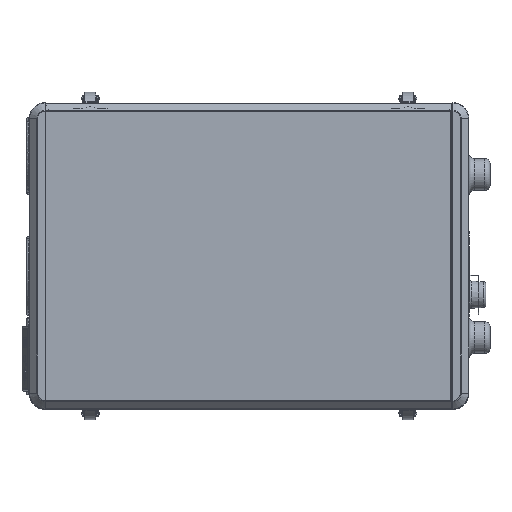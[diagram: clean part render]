
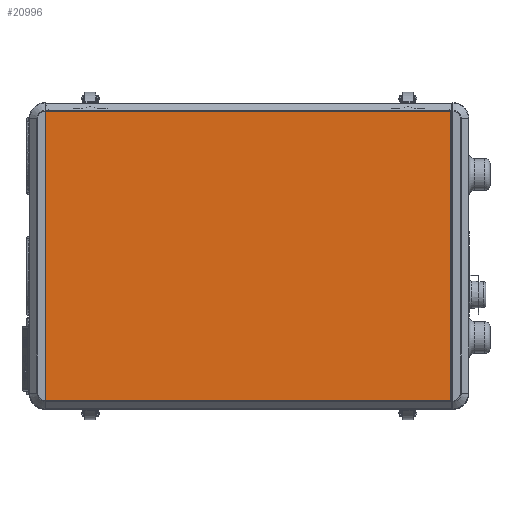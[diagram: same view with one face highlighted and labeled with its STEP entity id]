
A CAD part, top view. The second image highlights one B-rep face of the part: STEP entity #20996.
In plain terms, the highlighted planar face has unit normal (0, 0, 1) as drawn and (0, 0, -1) by its records, which use the part's own axes.
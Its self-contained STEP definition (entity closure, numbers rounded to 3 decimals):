
#1551=LINE('',#38131,#2999);
#1573=LINE('',#38186,#3021);
#1683=LINE('',#38441,#3131);
#1684=LINE('',#38452,#3132);
#2999=VECTOR('',#28151,1000.);
#3021=VECTOR('',#28199,1000.);
#3131=VECTOR('',#28443,1000.);
#3132=VECTOR('',#28464,1000.);
#3852=PLANE('',#23169);
#8486=ORIENTED_EDGE('',*,*,#11910,.T.);
#8487=ORIENTED_EDGE('',*,*,#11748,.T.);
#8488=ORIENTED_EDGE('',*,*,#11905,.T.);
#8489=ORIENTED_EDGE('',*,*,#11774,.T.);
#11748=EDGE_CURVE('',#13878,#13877,#1551,.T.);
#11774=EDGE_CURVE('',#13898,#13897,#1573,.T.);
#11905=EDGE_CURVE('',#13877,#13898,#1683,.T.);
#11910=EDGE_CURVE('',#13897,#13878,#1684,.T.);
#13877=VERTEX_POINT('',#38130);
#13878=VERTEX_POINT('',#38132);
#13897=VERTEX_POINT('',#38185);
#13898=VERTEX_POINT('',#38187);
#16697=EDGE_LOOP('',(#8486,#8487,#8488,#8489));
#18261=FACE_BOUND('',#16697,.T.);
#20996=ADVANCED_FACE('',(#18261),#3852,.F.);
#23169=AXIS2_PLACEMENT_3D('',#38453,#28465,#28466);
#28151=DIRECTION('',(0.,-1.,0.));
#28199=DIRECTION('',(0.,1.,0.));
#28443=DIRECTION('',(-1.,0.,0.));
#28464=DIRECTION('',(1.,0.,0.));
#28465=DIRECTION('',(0.,0.,1.));
#28466=DIRECTION('',(1.,0.,0.));
#38130=CARTESIAN_POINT('',(1735.976,805.575,98.668));
#38131=CARTESIAN_POINT('',(1735.976,1351.746,98.668));
#38132=CARTESIAN_POINT('',(1735.976,1351.746,98.668));
#38185=CARTESIAN_POINT('',(970.976,1351.746,98.668));
#38186=CARTESIAN_POINT('',(970.976,805.575,98.668));
#38187=CARTESIAN_POINT('',(970.976,805.575,98.668));
#38441=CARTESIAN_POINT('',(1736.976,805.575,98.668));
#38452=CARTESIAN_POINT('',(969.976,1351.746,98.668));
#38453=CARTESIAN_POINT('',(0.,0.,98.668));
